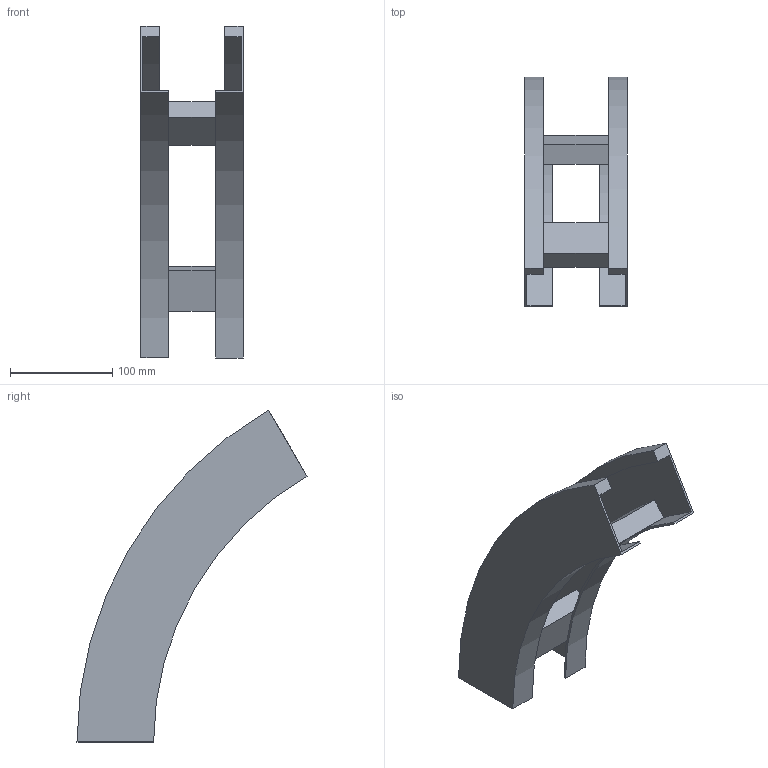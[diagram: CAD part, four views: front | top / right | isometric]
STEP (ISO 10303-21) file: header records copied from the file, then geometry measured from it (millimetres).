
FILE_DESCRIPTION (( 'STEP AP214' ), '1' );
FILE_NAME ('B2_41B3C100.step', '2025-02-21T15:00:23', ( '' ), ( '' ), 'SwSTEP 2.0', 'SolidWorks 2023', '' );
FILE_SCHEMA (( 'AUTOMOTIVE_DESIGN' ));
Length unit declared in the file: millimetre
Products named in the file (3): TRAVERSINO_100; B2_LONGH.DISCESA_60°_H75_R300; B2_41B3C100
Assembly tree (4 placements, depth 2):
  B2_41B3C100
    B2_LONGH.DISCESA_60°_H75_R300  x2
    TRAVERSINO_100  x2
Bounding box: 100 x 225 x 324.76 mm (x, y, z)
Volume: 441453.1 mm3; surface area: 193147.4 mm2
Topology: 4 solids, 4 shells, 32 faces, 72 edges, 48 vertices
Faces by surface type: plane 24, cylinder 8
Entity records: 552 total; most frequent: DIRECTION 90, CARTESIAN_POINT 83, ORIENTED_EDGE 72, EDGE_CURVE 36, AXIS2_PLACEMENT_3D 31, VECTOR 28, LINE 28, VERTEX_POINT 24
